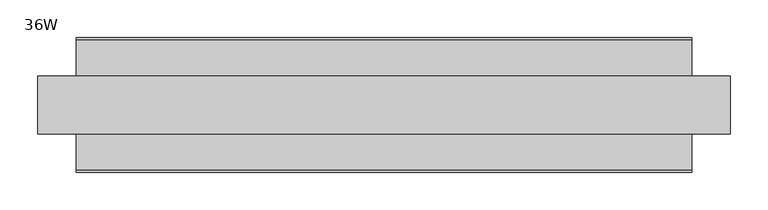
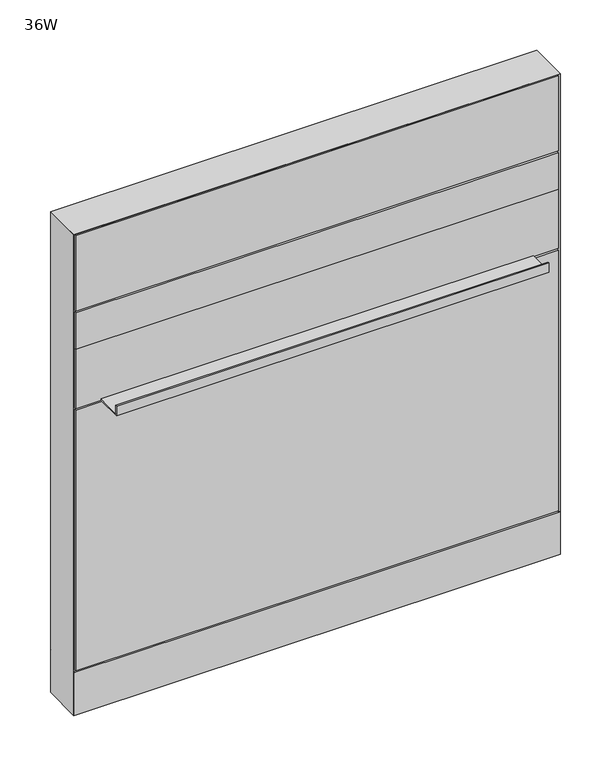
"""IFC4 building model written with IfcOpenShell, lengths in millimetres: furniture geometry, Steelcase - Montage - Frame - 38H - Enhanced Standard - Base and Desk-Height Cavity : 36W."""

from ifc_helpers import new_model, si_unit, point, frame, frame_2d, origin, origin_with_axes, place, context, project, spatial, polyline, circle_curve, trimmed, segment, composite_curve, outline, extrude, faceted_brep, source, transform, mapped, element, save


def furniture_36w_2aa7a200(model_context):
    return source(origin(), model_context, "Body", "SolidModel", [
        extrude(outline(polyline([(3.175, 31.7500194), (3.175, 38.1000194), (911.225, 38.1000194), (911.225, 31.7500194), (3.175, 31.7500194)])), frame((0.0, 0.0, 92.075), z_axis=(0.0, 0.0, 1.0), x_axis=(1.0, 0.0, 0.0)), (0.0, 0.0, 1.0), 517.525),
        extrude(outline(polyline([(88.8960768, 612.775), (38.0960752, 612.775), (38.0960752, 615.315), (86.3560768, 615.315), (86.3560768, 631.825), (88.8960768, 631.825), (88.8960768, 612.775)])), frame((50.8000015, 0.0, 0.0), z_axis=(1.0, 0.0, 0.0), x_axis=(0.0, 1.0, 0.0)), (0.0, 0.0, 1.0), 812.799997),
        extrude(outline(polyline([(3.175, 31.7460752), (3.175, 38.0960752), (911.225, 38.0960752), (911.225, 31.7460752), (3.175, 31.7460752)])), frame((0.0, 0.0, 730.2499516), z_axis=(0.0, 0.0, 1.0), x_axis=(1.0, 0.0, 0.0)), (0.0, 0.0, 1.0), 73.0250484),
        extrude(outline(polyline([(3.175, 31.7460752), (3.175, 38.0960752), (911.225, 38.0960752), (911.225, 31.7460752), (3.175, 31.7460752)])), frame((0.0, 0.0, 612.775), z_axis=(0.0, 0.0, 1.0), x_axis=(1.0, 0.0, 0.0)), (0.0, 0.0, 1.0), 117.4749516),
        extrude(outline(polyline([(3.175, 31.7500194), (3.175, 38.1000194), (911.225, 38.1000194), (911.225, 31.7500194), (3.175, 31.7500194)])), frame((0.0, 0.0, 806.45), z_axis=(0.0, 0.0, 1.0), x_axis=(1.0, 0.0, 0.0)), (0.0, 0.0, 1.0), 149.225),
        extrude(outline(polyline([(3.175, -31.7500194), (911.225, -31.7500194), (911.225, -38.1000194), (3.175, -38.1000194), (3.175, -31.7500194)])), frame((0.0, 0.0, 92.075), z_axis=(0.0, 0.0, 1.0), x_axis=(1.0, 0.0, 0.0)), (0.0, 0.0, 1.0), 517.525),
        extrude(outline(polyline([(-88.8960768, 612.775), (-88.8960768, 631.825), (-86.3560768, 631.825), (-86.3560768, 615.315), (-38.0960752, 615.315), (-38.0960752, 612.775), (-88.8960768, 612.775)])), frame((50.8000015, 0.0, 0.0), z_axis=(1.0, 0.0, 0.0), x_axis=(0.0, 1.0, 0.0)), (0.0, 0.0, 1.0), 812.799997),
        extrude(outline(polyline([(3.175, -31.7460752), (911.225, -31.7460752), (911.225, -38.0960752), (3.175, -38.0960752), (3.175, -31.7460752)])), frame((0.0, 0.0, 730.2499516), z_axis=(0.0, 0.0, 1.0), x_axis=(1.0, 0.0, 0.0)), (0.0, 0.0, 1.0), 73.0250484),
        extrude(outline(polyline([(3.175, -31.7460752), (911.225, -31.7460752), (911.225, -38.0960752), (3.175, -38.0960752), (3.175, -31.7460752)])), frame((0.0, 0.0, 612.775), z_axis=(0.0, 0.0, 1.0), x_axis=(1.0, 0.0, 0.0)), (0.0, 0.0, 1.0), 117.4749516),
        extrude(outline(polyline([(3.175, -31.7500194), (911.225, -31.7500194), (911.225, -38.1000194), (3.175, -38.1000194), (3.175, -31.7500194)])), frame((0.0, 0.0, 806.45), z_axis=(0.0, 0.0, 1.0), x_axis=(1.0, 0.0, 0.0)), (0.0, 0.0, 1.0), 149.225),
        extrude(outline(polyline([(908.0499879, 31.749953), (908.0499879, -31.7499985), (6.35, -31.7499985), (6.35, 31.749953), (908.0499879, 31.749953)])), frame((0.0, 0.0, 809.6250242), z_axis=(0.0, 0.0, 1.0), x_axis=(1.0, 0.0, 0.0)), (0.0, 0.0, 1.0), 142.8749273),
        extrude(outline(polyline([(908.0499879, 31.749953), (908.0499879, -31.7499985), (6.35, -31.7499985), (6.35, 31.749953), (908.0499879, 31.749953)])), frame((0.0, 0.0, 619.125), z_axis=(0.0, 0.0, 1.0), x_axis=(1.0, 0.0, 0.0)), (0.0, 0.0, 1.0), 177.8000242),
        extrude(outline(polyline([(908.0499879, 31.7500016), (908.0499879, -31.7499985), (6.35, -31.7499985), (6.35, 31.7500016), (908.0499879, 31.7500016)])), frame((0.0, 0.0, 88.899997), z_axis=(0.0, 0.0, 1.0), x_axis=(1.0, 0.0, 0.0)), (0.0, 0.0, 1.0), 517.525003),
        extrude(outline(polyline([(6.350003, -31.7499985), (908.049997, -31.7499985), (914.4, -38.1000015), (0.0, -38.1000015), (6.350003, -31.7499985)])), frame((0.0, 0.0, 4.064), z_axis=(0.0, 0.0, 1.0), x_axis=(1.0, 0.0, 0.0)), (0.0, 0.0, 1.0), 84.835997),
        extrude(outline(polyline([(6.3500002, 31.7500017), (0.0, 38.1000015), (914.4, 38.1000015), (908.0500002, 31.7500017), (6.3500002, 31.7500017)])), frame((0.0, 0.0, 4.064), z_axis=(0.0, 0.0, 1.0), x_axis=(1.0, 0.0, 0.0)), (0.0, 0.0, 1.0), 84.835997),
        faceted_brep([(914.4, -38.1000015, 958.85), (0.0, -38.1000015, 958.85), (6.3500484, -31.749953, 952.4999516), (908.0499516, -31.749953, 952.4999516), (6.3500484, 31.749953, 952.4999516), (908.0499516, 31.749953, 952.4999516), (0.0, 38.1000015, 958.85), (914.4, 38.1000015, 958.85)], [[[0, 1, 2, 3]], [[3, 2, 4, 5]], [[6, 7, 5, 4]], [[1, 0, 7, 6]], [[2, 1, 6, 4]], [[0, 3, 5, 7]]]),
        extrude(outline(composite_curve([segment(trimmed(circle_curve(frame_2d((44.45, 0.0)), 15.24), [point((29.21, 0.0))], [point((59.69, 0.0))], False, "CARTESIAN"), True, "CONTINUOUS"), segment(trimmed(circle_curve(frame_2d((44.45, 0.0)), 15.24), [point((59.69, 0.0))], [point((29.21, 0.0))], False, "CARTESIAN"), True, "CONTINUOUS")], self_intersect=False)), origin_with_axes(), (0.0, 0.0, 1.0), 4.064),
        extrude(outline(composite_curve([segment(trimmed(circle_curve(frame_2d((869.95, 0.0)), 15.24), [point((854.71, 0.0))], [point((885.19, 0.0))], False, "CARTESIAN"), True, "CONTINUOUS"), segment(trimmed(circle_curve(frame_2d((869.95, 0.0)), 15.24), [point((885.19, 0.0))], [point((854.71, 0.0))], False, "CARTESIAN"), True, "CONTINUOUS")], self_intersect=False)), origin_with_axes(), (0.0, 0.0, 1.0), 4.064),
        faceted_brep([(914.4, -38.1000106, 4.064), (914.4, 38.1000015, 4.064), (914.4, 38.1000015, 958.85), (914.4, -38.1000106, 958.8499637), (0.0, 38.1000015, 4.064), (0.0, -38.1000015, 4.064), (0.0, -38.1000015, 958.85), (0.0, 38.1000015, 958.85), (908.0499879, 31.7500017, 606.425), (6.35, 31.7500017, 606.425), (6.3499998, 31.7500017, 619.125), (908.0499879, 31.7500017, 619.125), (6.35, -31.7499985, 619.125), (908.0499879, -31.7499985, 619.125), (6.350003, -31.7499985, 606.425), (908.0499879, -31.7499985, 606.425), (908.0499879, 31.7500017, 796.9250242), (6.35, 31.7500017, 796.9250242), (6.3499998, 31.7500017, 809.6250242), (908.0499879, 31.7500017, 809.6250242), (6.35, -31.7499985, 809.6250242), (908.0499879, -31.7499985, 809.6250242), (6.350003, -31.7499985, 796.9250242), (908.0499879, -31.7499985, 796.9250242), (6.35, 31.7500015, 4.064), (6.35, -31.7500015, 4.064), (908.0499879, 31.7499894, 4.064), (908.0499879, -31.7499985, 4.064), (6.35, 31.7500015, 952.5), (6.35, -31.7500015, 952.5), (908.0499879, -31.7499985, 952.4999516), (908.0499879, 31.7499899, 952.4999516)], [[[0, 1, 2, 3]], [[4, 5, 6, 7]], [[8, 9, 10, 11]], [[11, 10, 12, 13]], [[13, 12, 14, 15]], [[9, 8, 15, 14]], [[16, 17, 18, 19]], [[19, 18, 20, 21]], [[21, 20, 22, 23]], [[17, 16, 23, 22]], [[24, 25, 5, 4]], [[26, 1, 0, 27]], [[24, 4, 7, 28, 18, 17, 10, 9]], [[5, 25, 14, 12, 22, 20, 29, 6]], [[25, 24, 9, 14]], [[10, 17, 22, 12]], [[20, 18, 28, 29]], [[26, 27, 15, 8]], [[16, 11, 13, 23]], [[19, 21, 30, 31]], [[27, 0, 3, 30, 21, 23, 13, 15]], [[1, 26, 8, 11, 16, 19, 31, 2]], [[7, 6, 29, 28]], [[3, 2, 31, 30]]]),
    ])


if __name__ == "__main__":
    model = new_model("IFC4")
    model_context = context("Model", 3, world=origin())
    ifc_project = project(units=[si_unit("LENGTHUNIT", "METRE", prefix="MILLI")], contexts=[model_context])
    site = spatial("IfcSite", under=ifc_project)
    building = spatial("IfcBuilding", under=site)
    placement = place(None, origin())
    furniture_36w_shape = furniture_36w_2aa7a200(model_context)
    element("IfcFurniture", 1, ObjectType="Steelcase - Montage - Frame - 38H - Enhanced Standard - Base and Desk-Height Cavity : 36W", at=placement, inside=building, context=model_context, shape_type="MappedRepresentation", body=[
        mapped(furniture_36w_shape, transform((0.0, 0.0, 0.0), x_axis=(1.0, 0.0, 0.0), y_axis=(0.0, 1.0, 0.0), z_axis=(0.0, 0.0, 1.0))),
    ])
    save(model, "model.ifc")
